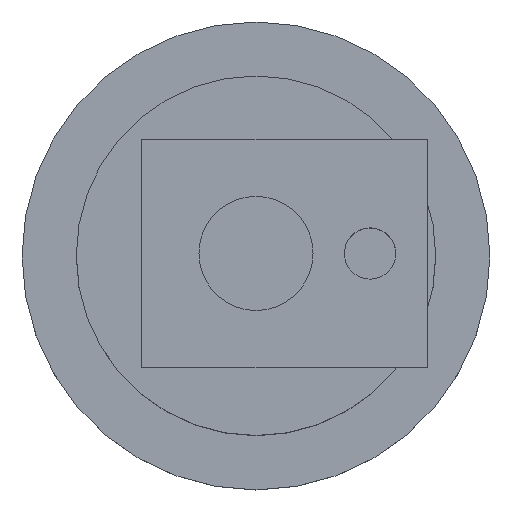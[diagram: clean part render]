
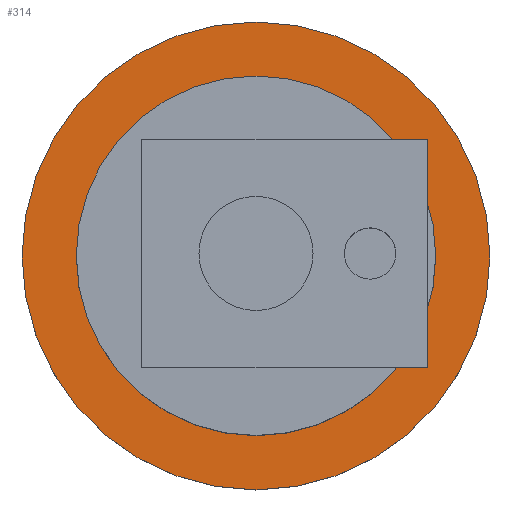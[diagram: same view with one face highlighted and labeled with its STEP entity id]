
A CAD part, top view. The second image highlights one B-rep face of the part: STEP entity #314.
In plain terms, the highlighted planar face has unit normal (0, 0, 1).
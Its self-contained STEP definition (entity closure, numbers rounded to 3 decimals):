
#247=CARTESIAN_POINT('Axis2P3D Location',(0.,0.,8.)) ;
#251=CARTESIAN_POINT('Vertex',(-10.5,0.,8.)) ;
#253=CARTESIAN_POINT('Vertex',(10.5,0.,8.)) ;
#282=CARTESIAN_POINT('Axis2P3D Location',(0.,0.,8.)) ;
#287=CARTESIAN_POINT('Axis2P3D Location',(0.,0.,8.)) ;
#291=CARTESIAN_POINT('Vertex',(-41.,0.,8.)) ;
#293=CARTESIAN_POINT('Vertex',(41.,0.,8.)) ;
#296=CARTESIAN_POINT('Axis2P3D Location',(0.,0.,8.)) ;
#305=CARTESIAN_POINT('Axis2P3D Location',(0.,0.,8.)) ;
#248=DIRECTION('Axis2P3D Direction',(-0.,0.,-1.)) ;
#283=DIRECTION('Axis2P3D Direction',(0.,0.,1.)) ;
#284=DIRECTION('Axis2P3D XDirection',(1.,0.,-0.)) ;
#288=DIRECTION('Axis2P3D Direction',(0.,0.,1.)) ;
#297=DIRECTION('Axis2P3D Direction',(0.,0.,1.)) ;
#306=DIRECTION('Axis2P3D Direction',(0.,0.,1.)) ;
#249=AXIS2_PLACEMENT_3D('Circle Axis2P3D',#247,#248,$) ;
#285=AXIS2_PLACEMENT_3D('Plane Axis2P3D',#282,#283,#284) ;
#289=AXIS2_PLACEMENT_3D('Circle Axis2P3D',#287,#288,$) ;
#298=AXIS2_PLACEMENT_3D('Circle Axis2P3D',#296,#297,$) ;
#307=AXIS2_PLACEMENT_3D('Circle Axis2P3D',#305,#306,$) ;
#302=ORIENTED_EDGE('',*,*,#295,.T.) ;
#303=ORIENTED_EDGE('',*,*,#300,.T.) ;
#311=ORIENTED_EDGE('',*,*,#255,.F.) ;
#312=ORIENTED_EDGE('',*,*,#309,.F.) ;
#313=FACE_BOUND('',#310,.T.) ;
#314=ADVANCED_FACE('NONE',(#304,#313),#286,.T.) ;
#250=CIRCLE('generated circle',#249,10.5) ;
#290=CIRCLE('generated circle',#289,41.) ;
#299=CIRCLE('generated circle',#298,41.) ;
#308=CIRCLE('generated circle',#307,10.5) ;
#255=EDGE_CURVE('',#252,#254,#250,.F.) ;
#295=EDGE_CURVE('',#292,#294,#290,.T.) ;
#300=EDGE_CURVE('',#294,#292,#299,.T.) ;
#309=EDGE_CURVE('',#254,#252,#308,.T.) ;
#301=EDGE_LOOP('',(#302,#303)) ;
#310=EDGE_LOOP('',(#311,#312)) ;
#304=FACE_OUTER_BOUND('',#301,.T.) ;
#286=PLANE('Plane',#285) ;
#252=VERTEX_POINT('',#251) ;
#254=VERTEX_POINT('',#253) ;
#292=VERTEX_POINT('',#291) ;
#294=VERTEX_POINT('',#293) ;
